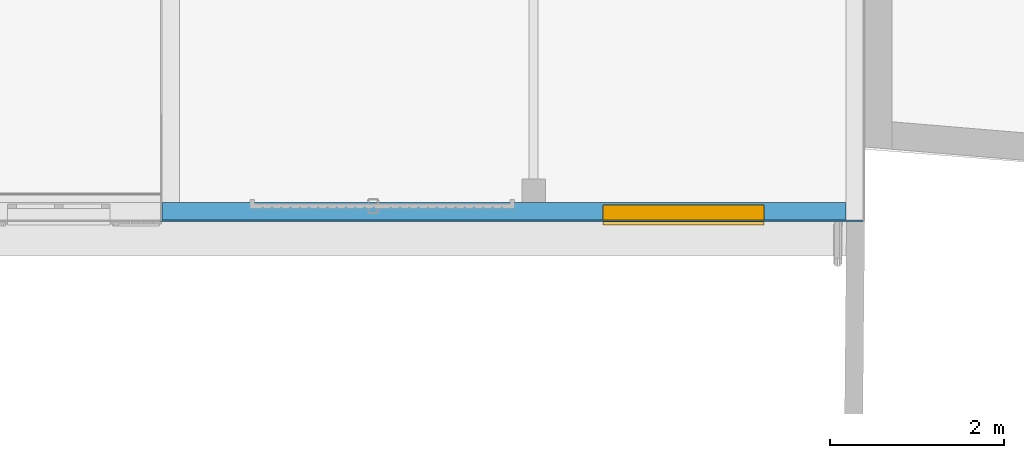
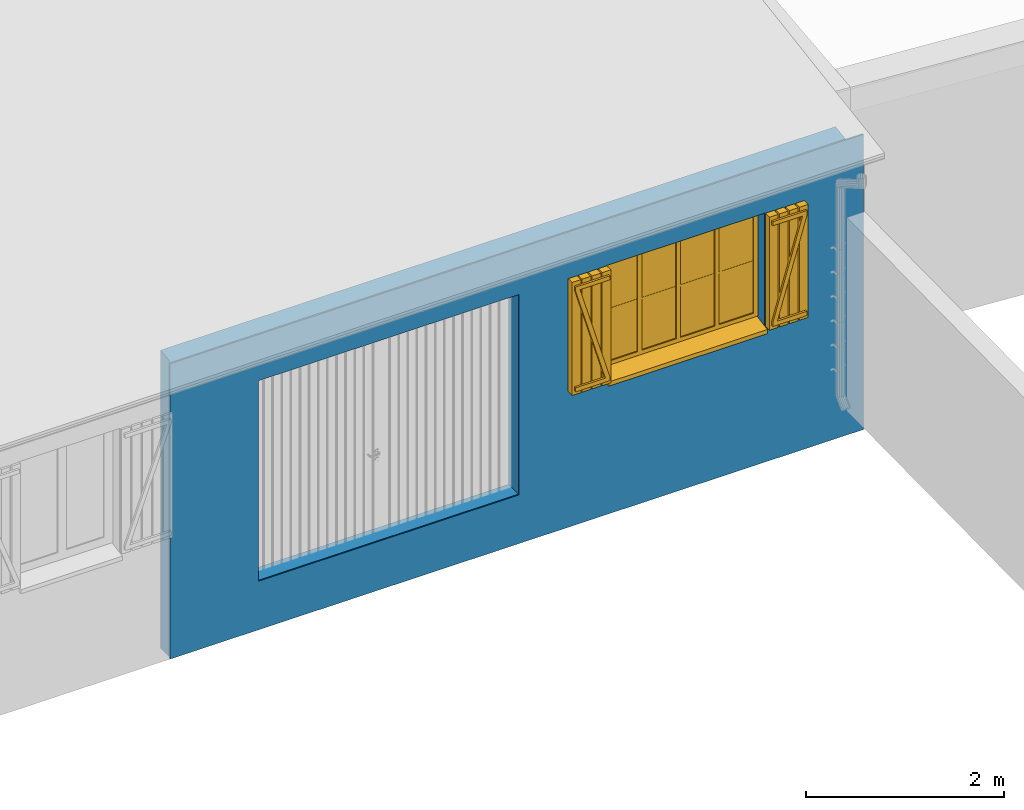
# One storey, part 9 of 12: 2 building element parts, 1 window, 2 openings, 1 element without a shape of its own.
"""IFC2X3 building model written with IfcOpenShell, lengths in metres."""

from ifc_helpers import new_model, entity, si_unit, converted_unit, derived_unit, money_unit, direction, frame, origin_with_axes, origin_2d_with_axis, place, context, subcontext, project, spatial, polyline, rectangle, outline, extrude, boolean, open_shell, faceted_brep, surface_model, material, type_object, element, fill, aggregate, save


model = new_model("IFC2X3")

# Units and contexts
model_context = context("Model", 3, precision=1e-05, world=origin_with_axes(), true_north=direction((0.0, 1.0)))
body_context = subcontext(model_context, "Body", "Model", "MODEL_VIEW")
ifc_project = project(units=[si_unit("LENGTHUNIT", "METRE"), si_unit("AREAUNIT", "SQUARE_METRE"), si_unit("VOLUMEUNIT", "CUBIC_METRE"), converted_unit("PLANEANGLEUNIT", "DEGREE", entity("IfcPlaneAngleMeasure", 0.0174532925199), si_unit("PLANEANGLEUNIT", "RADIAN"), dimensions=[0, 0, 0, 0, 0, 0, 0]), si_unit("SOLIDANGLEUNIT", "STERADIAN"), money_unit("CHF"), converted_unit("TIMEUNIT", "Year", entity("IfcTimeMeasure", 31556926.0), si_unit("TIMEUNIT", "SECOND"), dimensions=[0, 0, 1, 0, 0, 0, 0]), si_unit("MASSUNIT", "GRAM", prefix="KILO"), si_unit("THERMODYNAMICTEMPERATUREUNIT", "DEGREE_CELSIUS"), si_unit("LUMINOUSINTENSITYUNIT", "LUMEN"), si_unit("ENERGYUNIT", "JOULE", prefix="MEGA"), derived_unit("THERMALCONDUCTANCEUNIT", [(si_unit("POWERUNIT", "WATT"), 1), (si_unit("LENGTHUNIT", "METRE"), -1), (si_unit("THERMODYNAMICTEMPERATUREUNIT", "KELVIN"), -1)]), derived_unit("SPECIFICHEATCAPACITYUNIT", [(si_unit("ENERGYUNIT", "JOULE"), 1), (si_unit("MASSUNIT", "GRAM", prefix="KILO"), -1), (si_unit("THERMODYNAMICTEMPERATUREUNIT", "KELVIN"), -1)]), derived_unit("MASSDENSITYUNIT", [(si_unit("MASSUNIT", "GRAM", prefix="KILO"), 1), (si_unit("VOLUMEUNIT", "CUBIC_METRE"), -1)])], contexts=[model_context])

# Site, building, storey
site_placement = place(None, origin_with_axes())
site = spatial("IfcSite", under=ifc_project, at=site_placement, Name="Site", CompositionType="ELEMENT")
building_placement = place(site_placement, origin_with_axes())
building = spatial("IfcBuilding", under=site, at=building_placement, Name="Bâtiment", CompositionType="ELEMENT")
storey_placement = place(building_placement, origin_with_axes())
storey = spatial("IfcBuildingStorey", under=building, at=storey_placement, Name="Rez-de-chaussée", CompositionType="ELEMENT", Elevation=0.0)

# Window
window_style = type_object("IfcWindowStyle", Name="Fenêtre horizontale à châssis multiples 24", ConstructionType="NOTDEFINED", OperationType="USERDEFINED", ParameterTakesPrecedence=False, Sizeable=False)
wall_placement = place(storey_placement, frame((31.2721417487, 7.9529346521, -0.6), z_axis=(0.0, 0.0, 1.0), x_axis=(-1.0, 0.0, 0.0)))
opening_1_placement = place(wall_placement, frame((1.87, 0.0, 1.71), z_axis=(0.0, 0.0, 1.0), x_axis=(1.0, 0.0, 0.0)))
window_placement = place(opening_1_placement, frame((0.925, 0.0, 0.0), z_axis=(0.0, 0.0, 1.0), x_axis=(-1.0, 0.0, 0.0)))
window = element("IfcWindow", 1, at=window_placement, inside=storey, type_object=window_style, Name="FENETRE-002", ObjectType="WINDOW", OverallHeight=1.36, OverallWidth=1.85, context=body_context, shape_type="SurfaceModel", body=[
    faceted_brep([(1.85, -0.03, 0.0), (0.0, -0.03, 0.0), (0.0, -0.04, 0.0), (1.85, -0.04, 0.0), (1.85, -0.03, -0.1), (0.0, -0.03, -0.1), (0.0, -0.26, -0.1), (0.0, -0.26, -0.0487919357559), (0.0, -0.04, -0.01), (1.85, -0.04, -0.01), (1.85, -0.26, -0.0487919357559), (1.85, -0.26, -0.1)], [[[0, 1, 2, 3]], [[4, 5, 1, 0]], [[1, 5, 6, 7, 8, 2]], [[3, 2, 8, 9]], [[0, 3, 9, 10, 11, 4]], [[11, 6, 5, 4]], [[10, 7, 6, 11]], [[9, 8, 7, 10]]]),
    faceted_brep([(1.85, -0.221, -0.0326204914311), (1.95, -0.221, -0.0326204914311), (1.95, -0.301, -0.0326204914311), (1.85, -0.301, -0.0326204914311), (1.85, -0.221, 1.36), (1.95, -0.221, 1.36), (1.95, -0.301, 1.36), (1.85, -0.301, 1.36)], [[[0, 1, 2, 3]], [[0, 4, 5, 1]], [[1, 5, 6, 2]], [[3, 2, 6, 7]], [[4, 0, 3, 7]], [[5, 4, 7, 6]]]),
    faceted_brep([(1.96666666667, -0.221, -0.0326204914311), (2.06666666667, -0.221, -0.0326204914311), (2.06666666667, -0.301, -0.0326204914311), (1.96666666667, -0.301, -0.0326204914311), (1.96666666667, -0.221, 1.36), (2.06666666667, -0.221, 1.36), (2.06666666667, -0.301, 1.36), (1.96666666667, -0.301, 1.36)], [[[0, 1, 2, 3]], [[0, 4, 5, 1]], [[1, 5, 6, 2]], [[3, 2, 6, 7]], [[4, 0, 3, 7]], [[5, 4, 7, 6]]]),
    faceted_brep([(2.08333333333, -0.221, -0.0326204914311), (2.18333333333, -0.221, -0.0326204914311), (2.18333333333, -0.301, -0.0326204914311), (2.08333333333, -0.301, -0.0326204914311), (2.08333333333, -0.221, 1.36), (2.18333333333, -0.221, 1.36), (2.18333333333, -0.301, 1.36), (2.08333333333, -0.301, 1.36)], [[[0, 1, 2, 3]], [[0, 4, 5, 1]], [[1, 5, 6, 2]], [[3, 2, 6, 7]], [[4, 0, 3, 7]], [[5, 4, 7, 6]]]),
    faceted_brep([(2.2, -0.221, -0.0326204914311), (2.3, -0.221, -0.0326204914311), (2.3, -0.301, -0.0326204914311), (2.2, -0.301, -0.0326204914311), (2.2, -0.221, 1.36), (2.3, -0.221, 1.36), (2.3, -0.301, 1.36), (2.2, -0.301, 1.36)], [[[0, 1, 2, 3]], [[0, 4, 5, 1]], [[1, 5, 6, 2]], [[3, 2, 6, 7]], [[4, 0, 3, 7]], [[5, 4, 7, 6]]]),
    faceted_brep([(1.875, -0.301, 0.0173795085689), (2.275, -0.301, 0.0173795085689), (2.275, -0.326, 0.0173795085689), (1.875, -0.326, 0.0173795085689), (1.875, -0.301, 0.0673795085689), (2.275, -0.301, 0.0673795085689), (2.275, -0.326, 0.0673795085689), (1.875, -0.326, 0.0673795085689)], [[[0, 1, 2, 3]], [[0, 4, 5, 1]], [[1, 5, 6, 2]], [[3, 2, 6, 7]], [[4, 0, 3, 7]], [[5, 4, 7, 6]]]),
    faceted_brep([(1.875, -0.301, 1.31), (1.875, -0.301, 1.26), (1.875, -0.326, 1.26), (1.875, -0.326, 1.31), (2.275, -0.301, 1.31), (2.275, -0.301, 1.26), (2.275, -0.326, 1.26), (2.275, -0.326, 1.31)], [[[0, 1, 2, 3]], [[0, 4, 5, 1]], [[1, 5, 6, 2]], [[3, 2, 6, 7]], [[4, 0, 3, 7]], [[5, 4, 7, 6]]]),
    faceted_brep([(1.875, -0.301, 0.0673795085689), (1.92708413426, -0.301, 0.0673795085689), (1.92708413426, -0.326, 0.0673795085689), (1.875, -0.326, 0.0673795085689), (2.22291586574, -0.301, 1.26), (2.275, -0.301, 1.26), (2.275, -0.326, 1.26), (2.22291586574, -0.326, 1.26)], [[[0, 1, 2, 3]], [[0, 4, 5, 1]], [[1, 5, 6, 2]], [[3, 2, 6, 7]], [[4, 0, 3, 7]], [[5, 4, 7, 6]]]),
    faceted_brep([(0.0, -0.221, -0.0326204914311), (0.0, -0.301, -0.0326204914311), (-0.1, -0.301, -0.0326204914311), (-0.1, -0.221, -0.0326204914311), (0.0, -0.221, 1.36), (0.0, -0.301, 1.36), (-0.1, -0.301, 1.36), (-0.1, -0.221, 1.36)], [[[0, 1, 2, 3]], [[4, 5, 1, 0]], [[1, 5, 6, 2]], [[3, 2, 6, 7]], [[0, 3, 7, 4]], [[7, 6, 5, 4]]]),
    faceted_brep([(-0.116666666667, -0.221, -0.0326204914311), (-0.116666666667, -0.301, -0.0326204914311), (-0.216666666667, -0.301, -0.0326204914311), (-0.216666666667, -0.221, -0.0326204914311), (-0.116666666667, -0.221, 1.36), (-0.116666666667, -0.301, 1.36), (-0.216666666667, -0.301, 1.36), (-0.216666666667, -0.221, 1.36)], [[[0, 1, 2, 3]], [[4, 5, 1, 0]], [[1, 5, 6, 2]], [[3, 2, 6, 7]], [[0, 3, 7, 4]], [[7, 6, 5, 4]]]),
    faceted_brep([(-0.233333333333, -0.221, -0.0326204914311), (-0.233333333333, -0.301, -0.0326204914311), (-0.333333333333, -0.301, -0.0326204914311), (-0.333333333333, -0.221, -0.0326204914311), (-0.233333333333, -0.221, 1.36), (-0.233333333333, -0.301, 1.36), (-0.333333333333, -0.301, 1.36), (-0.333333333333, -0.221, 1.36)], [[[0, 1, 2, 3]], [[4, 5, 1, 0]], [[1, 5, 6, 2]], [[3, 2, 6, 7]], [[0, 3, 7, 4]], [[7, 6, 5, 4]]]),
    faceted_brep([(-0.35, -0.221, -0.0326204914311), (-0.35, -0.301, -0.0326204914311), (-0.45, -0.301, -0.0326204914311), (-0.45, -0.221, -0.0326204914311), (-0.35, -0.221, 1.36), (-0.35, -0.301, 1.36), (-0.45, -0.301, 1.36), (-0.45, -0.221, 1.36)], [[[0, 1, 2, 3]], [[4, 5, 1, 0]], [[1, 5, 6, 2]], [[3, 2, 6, 7]], [[0, 3, 7, 4]], [[7, 6, 5, 4]]]),
    faceted_brep([(-0.025, -0.301, 0.0173795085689), (-0.025, -0.326, 0.0173795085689), (-0.425, -0.326, 0.0173795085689), (-0.425, -0.301, 0.0173795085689), (-0.025, -0.301, 0.0673795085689), (-0.025, -0.326, 0.0673795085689), (-0.425, -0.326, 0.0673795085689), (-0.425, -0.301, 0.0673795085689)], [[[0, 1, 2, 3]], [[4, 5, 1, 0]], [[1, 5, 6, 2]], [[3, 2, 6, 7]], [[0, 3, 7, 4]], [[7, 6, 5, 4]]]),
    faceted_brep([(-0.025, -0.301, 1.31), (-0.025, -0.326, 1.31), (-0.025, -0.326, 1.26), (-0.025, -0.301, 1.26), (-0.425, -0.301, 1.31), (-0.425, -0.326, 1.31), (-0.425, -0.326, 1.26), (-0.425, -0.301, 1.26)], [[[0, 1, 2, 3]], [[4, 5, 1, 0]], [[1, 5, 6, 2]], [[3, 2, 6, 7]], [[0, 3, 7, 4]], [[7, 6, 5, 4]]]),
    faceted_brep([(-0.025, -0.301, 0.0673795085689), (-0.025, -0.326, 0.0673795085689), (-0.0770841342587, -0.326, 0.0673795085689), (-0.0770841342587, -0.301, 0.0673795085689), (-0.372915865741, -0.301, 1.26), (-0.372915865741, -0.326, 1.26), (-0.425, -0.326, 1.26), (-0.425, -0.301, 1.26)], [[[0, 1, 2, 3]], [[4, 5, 1, 0]], [[1, 5, 6, 2]], [[3, 2, 6, 7]], [[0, 3, 7, 4]], [[7, 6, 5, 4]]]),
    faceted_brep([(1.8, -0.065, 1.31), (1.85, -0.065, 1.31), (1.85, -0.015, 1.31), (1.8, -0.015, 1.31), (1.8, -0.065, 0.05), (1.85, -0.065, 0.05), (1.85, -0.015, 0.05), (1.8, -0.015, 0.05)], [[[0, 1, 2, 3]], [[0, 4, 5, 1]], [[1, 5, 6, 2]], [[3, 2, 6, 7]], [[4, 0, 3, 7]], [[5, 4, 7, 6]]]),
    faceted_brep([(0.05, -0.065, 0.05), (0.0, -0.065, 0.05), (0.0, -0.015, 0.05), (0.05, -0.015, 0.05), (0.05, -0.065, 1.31), (0.0, -0.065, 1.31), (0.0, -0.015, 1.31), (0.05, -0.015, 1.31)], [[[0, 1, 2, 3]], [[0, 4, 5, 1]], [[1, 5, 6, 2]], [[3, 2, 6, 7]], [[4, 0, 3, 7]], [[5, 4, 7, 6]]]),
    faceted_brep([(0.05, -0.065, 1.31), (0.0, -0.065, 1.31), (0.0, -0.015, 1.31), (0.05, -0.015, 1.31), (0.45, -0.065, 1.31), (0.5, -0.065, 1.31), (0.9, -0.065, 1.31), (0.95, -0.065, 1.31), (1.35, -0.065, 1.31), (1.4, -0.065, 1.31), (1.8, -0.065, 1.31), (1.85, -0.065, 1.31), (1.85, -0.065, 1.36), (0.0, -0.065, 1.36), (0.0, -0.015, 1.36), (1.85, -0.015, 1.36), (1.85, -0.015, 1.31), (1.8, -0.015, 1.31), (1.4, -0.015, 1.31), (1.35, -0.015, 1.31), (0.95, -0.015, 1.31), (0.9, -0.015, 1.31), (0.5, -0.015, 1.31), (0.45, -0.015, 1.31)], [[[0, 1, 2, 3]], [[0, 4, 5, 6, 7, 8, 9, 10, 11, 12, 13, 1]], [[1, 13, 14, 2]], [[3, 2, 14, 15, 16, 17, 18, 19, 20, 21, 22, 23]], [[4, 0, 3, 23]], [[5, 4, 23, 22]], [[6, 5, 22, 21]], [[7, 6, 21, 20]], [[8, 7, 20, 19]], [[9, 8, 19, 18]], [[10, 9, 18, 17]], [[11, 10, 17, 16]], [[12, 11, 16, 15]], [[13, 12, 15, 14]]]),
    faceted_brep([(0.45, -0.065, 0.05), (0.5, -0.065, 0.05), (0.5, -0.015, 0.05), (0.45, -0.015, 0.05), (0.05, -0.065, 0.05), (0.0, -0.065, 0.05), (0.0, -0.065, 0.0), (1.85, -0.065, 0.0), (1.85, -0.065, 0.05), (1.8, -0.065, 0.05), (1.4, -0.065, 0.05), (1.35, -0.065, 0.05), (0.95, -0.065, 0.05), (0.9, -0.065, 0.05), (0.9, -0.015, 0.05), (0.95, -0.015, 0.05), (1.35, -0.015, 0.05), (1.4, -0.015, 0.05), (1.8, -0.015, 0.05), (1.85, -0.015, 0.05), (1.85, -0.015, 0.0), (0.0, -0.015, 0.0), (0.0, -0.015, 0.05), (0.05, -0.015, 0.05)], [[[0, 1, 2, 3]], [[0, 4, 5, 6, 7, 8, 9, 10, 11, 12, 13, 1]], [[1, 13, 14, 2]], [[3, 2, 14, 15, 16, 17, 18, 19, 20, 21, 22, 23]], [[4, 0, 3, 23]], [[5, 4, 23, 22]], [[6, 5, 22, 21]], [[7, 6, 21, 20]], [[8, 7, 20, 19]], [[9, 8, 19, 18]], [[10, 9, 18, 17]], [[11, 10, 17, 16]], [[12, 11, 16, 15]], [[13, 12, 15, 14]]]),
    faceted_brep([(1.35, -0.065, 0.05), (1.35, -0.065, 1.31), (1.35, -0.015, 1.31), (1.35, -0.015, 0.05), (1.4, -0.065, 0.05), (1.4, -0.065, 1.31), (1.4, -0.015, 1.31), (1.4, -0.015, 0.05)], [[[0, 1, 2, 3]], [[0, 4, 5, 1]], [[1, 5, 6, 2]], [[3, 2, 6, 7]], [[4, 0, 3, 7]], [[5, 4, 7, 6]]]),
    faceted_brep([(0.9, -0.065, 0.05), (0.9, -0.065, 1.31), (0.9, -0.015, 1.31), (0.9, -0.015, 0.05), (0.95, -0.065, 0.05), (0.95, -0.065, 1.31), (0.95, -0.015, 1.31), (0.95, -0.015, 0.05)], [[[0, 1, 2, 3]], [[0, 4, 5, 1]], [[1, 5, 6, 2]], [[3, 2, 6, 7]], [[4, 0, 3, 7]], [[5, 4, 7, 6]]]),
    faceted_brep([(0.45, -0.065, 0.05), (0.45, -0.065, 1.31), (0.45, -0.015, 1.31), (0.45, -0.015, 0.05), (0.5, -0.065, 0.05), (0.5, -0.065, 1.31), (0.5, -0.015, 1.31), (0.5, -0.015, 0.05)], [[[0, 1, 2, 3]], [[0, 4, 5, 1]], [[1, 5, 6, 2]], [[3, 2, 6, 7]], [[4, 0, 3, 7]], [[5, 4, 7, 6]]]),
    surface_model("IfcShellBasedSurfaceModel", [(1.4, -0.05, 0.05), (1.8, -0.05, 0.05), (1.8, -0.05, 0.67), (1.4, -0.05, 0.67)], [open_shell([[[0, 1, 2, 3]]])]),
    surface_model("IfcShellBasedSurfaceModel", [(1.4, -0.03, 0.05), (1.4, -0.03, 0.67), (1.8, -0.03, 0.67), (1.8, -0.03, 0.05)], [open_shell([[[0, 1, 2, 3]]])]),
    surface_model("IfcShellBasedSurfaceModel", [(1.4, -0.05, 0.69), (1.8, -0.05, 0.69), (1.8, -0.05, 1.31), (1.4, -0.05, 1.31)], [open_shell([[[0, 1, 2, 3]]])]),
    surface_model("IfcShellBasedSurfaceModel", [(1.4, -0.03, 0.69), (1.4, -0.03, 1.31), (1.8, -0.03, 1.31), (1.8, -0.03, 0.69)], [open_shell([[[0, 1, 2, 3]]])]),
    faceted_brep([(1.8, -0.0525, 0.67), (1.4, -0.0525, 0.67), (1.4, -0.0275, 0.67), (1.8, -0.0275, 0.67), (1.8, -0.0525, 0.69), (1.4, -0.0525, 0.69), (1.4, -0.0275, 0.69), (1.8, -0.0275, 0.69)], [[[0, 1, 2, 3]], [[0, 4, 5, 1]], [[1, 5, 6, 2]], [[3, 2, 6, 7]], [[4, 0, 3, 7]], [[5, 4, 7, 6]]]),
    surface_model("IfcShellBasedSurfaceModel", [(0.95, -0.05, 0.05), (1.35, -0.05, 0.05), (1.35, -0.05, 0.67), (0.95, -0.05, 0.67)], [open_shell([[[0, 1, 2, 3]]])]),
    surface_model("IfcShellBasedSurfaceModel", [(0.95, -0.03, 0.05), (0.95, -0.03, 0.67), (1.35, -0.03, 0.67), (1.35, -0.03, 0.05)], [open_shell([[[0, 1, 2, 3]]])]),
    surface_model("IfcShellBasedSurfaceModel", [(0.95, -0.05, 0.69), (1.35, -0.05, 0.69), (1.35, -0.05, 1.31), (0.95, -0.05, 1.31)], [open_shell([[[0, 1, 2, 3]]])]),
    surface_model("IfcShellBasedSurfaceModel", [(0.95, -0.03, 0.69), (0.95, -0.03, 1.31), (1.35, -0.03, 1.31), (1.35, -0.03, 0.69)], [open_shell([[[0, 1, 2, 3]]])]),
    faceted_brep([(1.35, -0.0525, 0.67), (0.95, -0.0525, 0.67), (0.95, -0.0275, 0.67), (1.35, -0.0275, 0.67), (1.35, -0.0525, 0.69), (0.95, -0.0525, 0.69), (0.95, -0.0275, 0.69), (1.35, -0.0275, 0.69)], [[[0, 1, 2, 3]], [[0, 4, 5, 1]], [[1, 5, 6, 2]], [[3, 2, 6, 7]], [[4, 0, 3, 7]], [[5, 4, 7, 6]]]),
    surface_model("IfcShellBasedSurfaceModel", [(0.5, -0.05, 0.05), (0.9, -0.05, 0.05), (0.9, -0.05, 0.67), (0.5, -0.05, 0.67)], [open_shell([[[0, 1, 2, 3]]])]),
    surface_model("IfcShellBasedSurfaceModel", [(0.5, -0.03, 0.05), (0.5, -0.03, 0.67), (0.9, -0.03, 0.67), (0.9, -0.03, 0.05)], [open_shell([[[0, 1, 2, 3]]])]),
    surface_model("IfcShellBasedSurfaceModel", [(0.5, -0.05, 0.69), (0.9, -0.05, 0.69), (0.9, -0.05, 1.31), (0.5, -0.05, 1.31)], [open_shell([[[0, 1, 2, 3]]])]),
    surface_model("IfcShellBasedSurfaceModel", [(0.5, -0.03, 0.69), (0.5, -0.03, 1.31), (0.9, -0.03, 1.31), (0.9, -0.03, 0.69)], [open_shell([[[0, 1, 2, 3]]])]),
    faceted_brep([(0.9, -0.0525, 0.67), (0.5, -0.0525, 0.67), (0.5, -0.0275, 0.67), (0.9, -0.0275, 0.67), (0.9, -0.0525, 0.69), (0.5, -0.0525, 0.69), (0.5, -0.0275, 0.69), (0.9, -0.0275, 0.69)], [[[0, 1, 2, 3]], [[0, 4, 5, 1]], [[1, 5, 6, 2]], [[3, 2, 6, 7]], [[4, 0, 3, 7]], [[5, 4, 7, 6]]]),
    surface_model("IfcShellBasedSurfaceModel", [(0.05, -0.05, 0.05), (0.45, -0.05, 0.05), (0.45, -0.05, 0.67), (0.05, -0.05, 0.67)], [open_shell([[[0, 1, 2, 3]]])]),
    surface_model("IfcShellBasedSurfaceModel", [(0.05, -0.03, 0.05), (0.05, -0.03, 0.67), (0.45, -0.03, 0.67), (0.45, -0.03, 0.05)], [open_shell([[[0, 1, 2, 3]]])]),
    surface_model("IfcShellBasedSurfaceModel", [(0.05, -0.05, 0.69), (0.45, -0.05, 0.69), (0.45, -0.05, 1.31), (0.05, -0.05, 1.31)], [open_shell([[[0, 1, 2, 3]]])]),
    surface_model("IfcShellBasedSurfaceModel", [(0.05, -0.03, 0.69), (0.05, -0.03, 1.31), (0.45, -0.03, 1.31), (0.45, -0.03, 0.69)], [open_shell([[[0, 1, 2, 3]]])]),
    faceted_brep([(0.45, -0.0525, 0.67), (0.05, -0.0525, 0.67), (0.05, -0.0275, 0.67), (0.45, -0.0275, 0.67), (0.45, -0.0525, 0.69), (0.05, -0.0525, 0.69), (0.05, -0.0275, 0.69), (0.45, -0.0275, 0.69)], [[[0, 1, 2, 3]], [[0, 4, 5, 1]], [[1, 5, 6, 2]], [[3, 2, 6, 7]], [[4, 0, 3, 7]], [[5, 4, 7, 6]]]),
])

# Wall, opening
wall_type = type_object("IfcWallType", Name="0.0 - Mur ext: revét ext + maçonnerie 215", PredefinedType="ELEMENTEDWALL")
wall = element("IfcWall", 2, at=wall_placement, inside=storey, type_object=wall_type, Name="MUR_EXT-002", ObjectType="ELEMENTEDWALL")
opening_1 = element("IfcOpeningElement", 3, at=opening_1_placement, cuts=wall, Name="FENETRE-002", context=body_context, shape_type="SweptSolid", body=[
    extrude(rectangle(XDim=1.85, YDim=1.36, at=origin_2d_with_axis()), frame((0.0, 0.065, 0.68), z_axis=(0.0, 1.0, 0.0), x_axis=(1.0, 0.0, 0.0)), (0.0, 0.0, 1.0), 0.365),
    extrude(rectangle(XDim=1.85, YDim=1.36, at=origin_2d_with_axis()), frame((0.0, 0.065, 0.68), z_axis=(0.0, -1.0, 0.0), x_axis=(1.0, 0.0, 0.0)), (0.0, 0.0, 1.0), 0.28),
    extrude(rectangle(XDim=1.85, YDim=0.1, at=origin_2d_with_axis()), frame((0.0, 0.03, -0.05), z_axis=(0.0, 1.0, 0.0), x_axis=(1.0, 0.0, 0.0)), (0.0, 0.0, 1.0), 0.25),
])

fill(opening_1, window)

# Opening
opening_2_placement = place(wall_placement, frame((5.335, 0.0, 0.6), z_axis=(0.0, 0.0, 1.0), x_axis=(1.0, 0.0, 0.0)))
element("IfcOpeningElement", 4, at=opening_2_placement, cuts=wall, Name="PORTE-002", context=body_context, shape_type="SweptSolid", body=[
    extrude(rectangle(XDim=3.04, YDim=2.47, at=origin_2d_with_axis()), frame((0.0, 0.065, 1.235), z_axis=(0.0, -1.0, 0.0), x_axis=(1.0, 0.0, 0.0)), (0.0, 0.0, -1.0), 0.365),
    extrude(rectangle(XDim=3.04, YDim=2.47, at=origin_2d_with_axis()), frame((0.0, 0.065, 1.235), z_axis=(0.0, 1.0, 0.0), x_axis=(1.0, 0.0, 0.0)), (0.0, 0.0, -1.0), 0.28),
])

# Building element part
ifc_material_1 = material(Name="Brique ciment (extérieur)")
building_element_part_1_placement = place(wall_placement, origin_with_axes())
building_element_part_1 = element("IfcBuildingElementPart", 5, at=building_element_part_1_placement, material=ifc_material_1, Name="Brique ciment (extérieur)", context=body_context, shape_type="CSG", body=[
    boolean("DIFFERENCE", boolean("DIFFERENCE", extrude(outline(polyline([(-0.215, 0.0), (7.885, 0.0), (7.885, 0.2), (-0.215, 0.2), (-0.215, 0.0)])), origin_with_axes(), (0.0, 0.0, 1.0), 5.5967588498), faceted_brep([(7.87, 0.0, 3.6743999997), (7.87, 0.0, 0.0), (7.885, 0.0, 0.0), (7.885, 0.0, 5.5967588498), (-0.215, 0.0, 5.5967588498), (-0.215, 0.0, 0.0), (0.0, 0.0, 0.0), (0.0, 0.0, 3.6743999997), (7.87, 0.2, 3.6423999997), (7.87, 0.2, 0.0), (7.885, 0.2, 0.0), (7.885, 0.2, 5.5967588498), (-0.215, 0.2, 5.5967588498), (-0.215, 0.2, 0.0), (0.0, 0.2, 0.0), (0.0, 0.2, 3.6423999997)], [[[0, 1, 2, 3, 4, 5, 6, 7]], [[1, 0, 8, 9]], [[1, 9, 10, 2]], [[3, 2, 10, 11]], [[12, 4, 3, 11]], [[12, 13, 5, 4]], [[14, 6, 5, 13]], [[7, 6, 14, 15]], [[0, 7, 15, 8]], [[15, 14, 13, 12, 11, 10, 9, 8]]])), faceted_brep([(7.88500002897, 0.2, 3.6423999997), (7.885, 0.2, 5.5967588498), (-0.215, 0.2, 5.5967588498), (-0.215, 0.2, 0.0), (-0.2, 0.2, 0.0), (-0.2, 0.2, 3.6423999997), (7.88500002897, 0.215, 3.6399999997), (7.885, 0.215, 5.5967588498), (-0.215, 0.215, 5.5967588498), (-0.215, 0.215, 0.0), (-0.2, 0.215, 0.0), (-0.2, 0.215, 3.6399999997)], [[[0, 1, 2, 3, 4, 5]], [[0, 6, 7, 1]], [[8, 2, 1, 7]], [[8, 9, 3, 2]], [[10, 4, 3, 9]], [[5, 4, 10, 11]], [[5, 11, 6, 0]], [[11, 10, 9, 8, 7, 6]]])),
])

ifc_material_2 = material(Name="Finition ext - Crépis")
building_element_part_2_placement = place(wall_placement, origin_with_axes())
building_element_part_2 = element("IfcBuildingElementPart", 6, at=building_element_part_2_placement, material=ifc_material_2, Name="Finition ext - Crépis", context=body_context, shape_type="CSG", body=[
    boolean("DIFFERENCE", boolean("DIFFERENCE", extrude(outline(polyline([(-0.215, 0.2), (7.885, 0.2), (7.885, 0.215), (-0.215, 0.215), (-0.215, 0.2)])), origin_with_axes(), (0.0, 0.0, 1.0), 5.5967588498), faceted_brep([(7.87, 0.0, 3.6743999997), (7.87, 0.0, 0.0), (7.885, 0.0, 0.0), (7.885, 0.0, 5.5967588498), (-0.215, 0.0, 5.5967588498), (-0.215, 0.0, 0.0), (0.0, 0.0, 0.0), (0.0, 0.0, 3.6743999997), (7.87, 0.2, 3.6423999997), (7.87, 0.2, 0.0), (7.885, 0.2, 0.0), (7.885, 0.2, 5.5967588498), (-0.215, 0.2, 5.5967588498), (-0.215, 0.2, 0.0), (0.0, 0.2, 0.0), (0.0, 0.2, 3.6423999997)], [[[0, 1, 2, 3, 4, 5, 6, 7]], [[1, 0, 8, 9]], [[1, 9, 10, 2]], [[3, 2, 10, 11]], [[12, 4, 3, 11]], [[12, 13, 5, 4]], [[14, 6, 5, 13]], [[7, 6, 14, 15]], [[0, 7, 15, 8]], [[15, 14, 13, 12, 11, 10, 9, 8]]])), faceted_brep([(7.88500002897, 0.2, 3.6423999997), (7.885, 0.2, 5.5967588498), (-0.215, 0.2, 5.5967588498), (-0.215, 0.2, 0.0), (-0.2, 0.2, 0.0), (-0.2, 0.2, 3.6423999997), (7.88500002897, 0.215, 3.6399999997), (7.885, 0.215, 5.5967588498), (-0.215, 0.215, 5.5967588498), (-0.215, 0.215, 0.0), (-0.2, 0.215, 0.0), (-0.2, 0.215, 3.6399999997)], [[[0, 1, 2, 3, 4, 5]], [[0, 6, 7, 1]], [[8, 2, 1, 7]], [[8, 9, 3, 2]], [[10, 4, 3, 9]], [[5, 4, 10, 11]], [[5, 11, 6, 0]], [[11, 10, 9, 8, 7, 6]]])),
])

aggregate(wall, [building_element_part_1, building_element_part_2])

save(model, "model.ifc")
